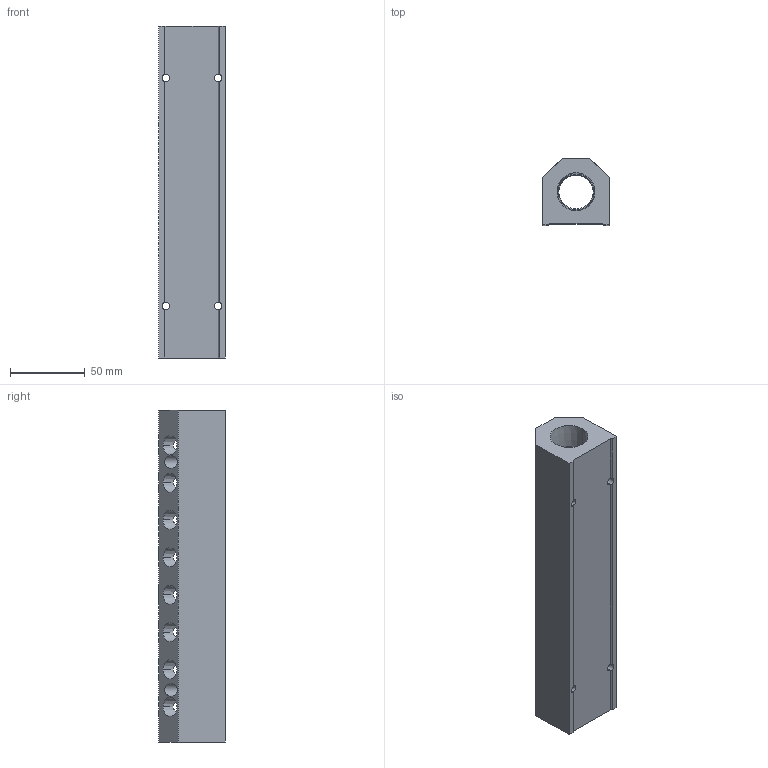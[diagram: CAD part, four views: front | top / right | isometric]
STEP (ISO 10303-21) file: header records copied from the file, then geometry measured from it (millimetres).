
FILE_DESCRIPTION (( 'STEP AP214' ), '1' );
FILE_NAME ('ALM8BCD-N4N12-222R.step', '2022-02-06T14:06:19', ( '' ), ( '' ), 'SwSTEP 2.0', 'SolidWorks 2020', '' );
FILE_SCHEMA (( 'AUTOMOTIVE_DESIGN' ));
Length unit declared in the file: millimetre
Products named in the file (1): ALM8BCD-N4N12-222R
Bounding box: 44.5 x 44.5 x 222 mm (x, y, z)
Volume: 262748.2 mm3; surface area: 62109.9 mm2
Topology: 1 solids, 1 shells, 375 faces, 1055 edges, 698 vertices
Faces by surface type: plane 214, bspline 73, cone 62, cylinder 26
Entity records: 21965 total; most frequent: CARTESIAN_POINT 9430, ORIENTED_EDGE 2110, DIRECTION 1483, EDGE_CURVE 1055, VERTEX_POINT 698, LINE 669, VECTOR 669, EDGE_LOOP 449
